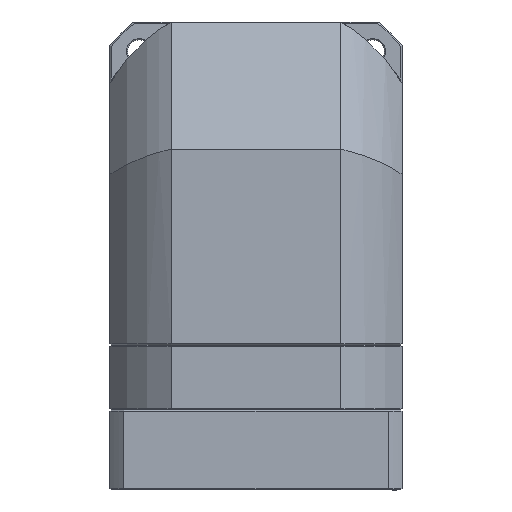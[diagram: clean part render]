
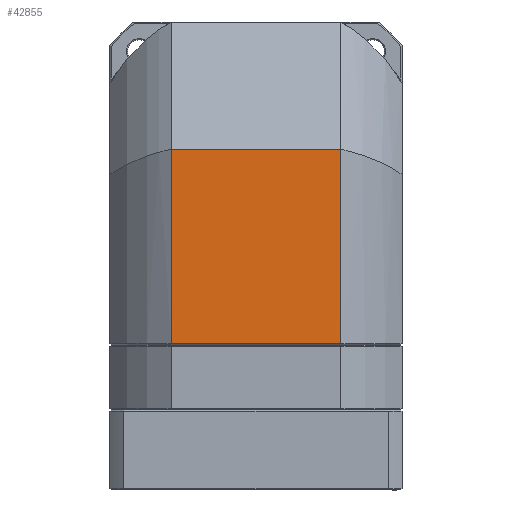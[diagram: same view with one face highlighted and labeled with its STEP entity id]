
A CAD part, front view. The second image highlights one B-rep face of the part: STEP entity #42855.
In plain terms, the highlighted planar face has unit normal (0, 1, 0).
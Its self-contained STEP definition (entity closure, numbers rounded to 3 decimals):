
#344 = EDGE_LOOP ( 'NONE', ( #58446, #19666, #39028, #45491 ) ) ;
#2035 = DIRECTION ( 'NONE',  ( 1., 0., 0. ) ) ;
#13376 = CARTESIAN_POINT ( 'NONE',  ( 0., -261.111, 7.5 ) ) ;
#14688 = CARTESIAN_POINT ( 'NONE',  ( -33.407, -261.111, -30.85 ) ) ;
#17237 = AXIS2_PLACEMENT_3D ( 'NONE', #78570, #31151, #86532 ) ;
#18650 = VECTOR ( 'NONE', #46661, 1000. ) ;
#19349 = EDGE_CURVE ( 'NONE', #38685, #50779, #96055, .T. ) ;
#19666 = ORIENTED_EDGE ( 'NONE', *, *, #67154, .F. ) ;
#19828 = VECTOR ( 'NONE', #2035, 1000. ) ;
#23006 = VECTOR ( 'NONE', #53960, 1000. ) ;
#31151 = DIRECTION ( 'NONE',  ( 0., -1., 0. ) ) ;
#32679 = VERTEX_POINT ( 'NONE', #87886 ) ;
#32985 = VECTOR ( 'NONE', #99741, 1000. ) ;
#34868 = EDGE_CURVE ( 'NONE', #69898, #32679, #84349, .T. ) ;
#38685 = VERTEX_POINT ( 'NONE', #65767 ) ;
#39028 = ORIENTED_EDGE ( 'NONE', *, *, #34868, .F. ) ;
#40555 = FACE_OUTER_BOUND ( 'NONE', #344, .T. ) ;
#42855 = ADVANCED_FACE ( 'NONE', ( #40555 ), #86187, .F. ) ;
#45491 = ORIENTED_EDGE ( 'NONE', *, *, #71923, .T. ) ;
#46661 = DIRECTION ( 'NONE',  ( 0., 0., -1. ) ) ;
#50779 = VERTEX_POINT ( 'NONE', #74305 ) ;
#53960 = DIRECTION ( 'NONE',  ( 1., 0., 0. ) ) ;
#56914 = CARTESIAN_POINT ( 'NONE',  ( 0., -261.111, -69.2 ) ) ;
#58446 = ORIENTED_EDGE ( 'NONE', *, *, #19349, .T. ) ;
#64364 = CARTESIAN_POINT ( 'NONE',  ( -33.407, -261.111, 7.5 ) ) ;
#65767 = CARTESIAN_POINT ( 'NONE',  ( 33.407, -261.111, 7.5 ) ) ;
#67154 = EDGE_CURVE ( 'NONE', #32679, #50779, #85543, .T. ) ;
#69898 = VERTEX_POINT ( 'NONE', #64364 ) ;
#71923 = EDGE_CURVE ( 'NONE', #69898, #38685, #88692, .T. ) ;
#74305 = CARTESIAN_POINT ( 'NONE',  ( 33.407, -261.111, -69.2 ) ) ;
#75939 = CARTESIAN_POINT ( 'NONE',  ( 33.407, -261.111, -30.62 ) ) ;
#78570 = CARTESIAN_POINT ( 'NONE',  ( -33.407, -261.111, -69.2 ) ) ;
#84349 = LINE ( 'NONE', #14688, #18650 ) ;
#85543 = LINE ( 'NONE', #56914, #19828 ) ;
#86187 = PLANE ( 'NONE',  #17237 ) ;
#86532 = DIRECTION ( 'NONE',  ( 1., 0., 0. ) ) ;
#87886 = CARTESIAN_POINT ( 'NONE',  ( -33.407, -261.111, -69.2 ) ) ;
#88692 = LINE ( 'NONE', #13376, #23006 ) ;
#96055 = LINE ( 'NONE', #75939, #32985 ) ;
#99741 = DIRECTION ( 'NONE',  ( 0., 0., -1. ) ) ;
